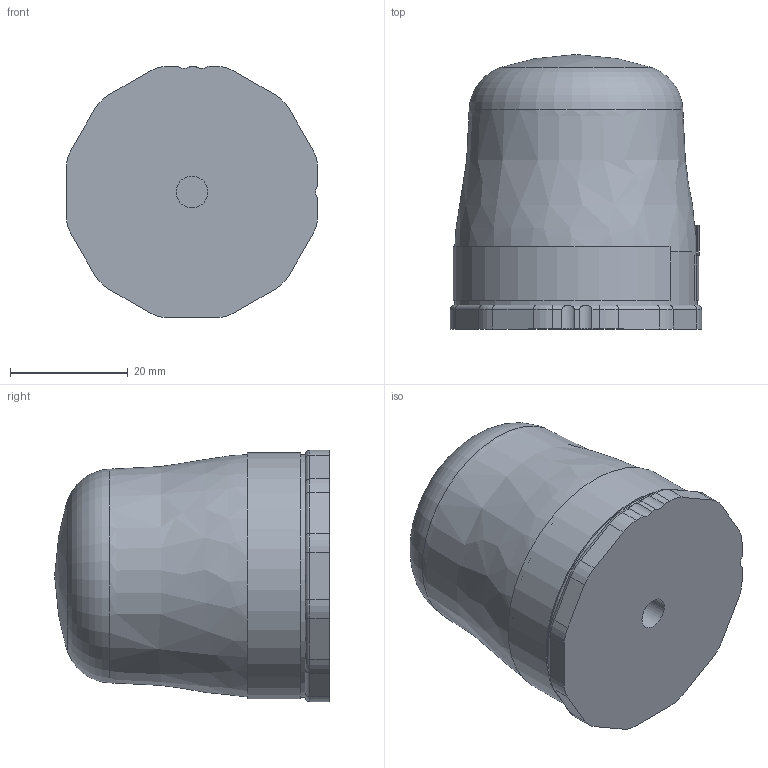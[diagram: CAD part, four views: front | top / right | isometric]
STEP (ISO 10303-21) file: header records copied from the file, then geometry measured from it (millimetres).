
FILE_DESCRIPTION(/* description */ ('','CAx-IF Rec.Pracs.---Representation and Presentation of Product Manufacturing Information (PMI)---3.8---2014-02-18'),/* implementation_level */ '2;1');
FILE_NAME(/* name */ 'C:\Users\chad_thelen\Desktop\G-Link-200.stp',/* time_stamp */ '2018-07-02T11:42:55-04:00',/* author */ ('chad_thelen'),/* organization */ (''),/* preprocessor_version */ 'ST-DEVELOPER v16.5',/* originating_system */ 'Autodesk Inventor 2017',/* authorisation */ '');
FILE_SCHEMA (('AP242_MANAGED_MODEL_BASED_3D_ENGINEERING_MIM_LF { 1 0 10303 442 1 1 4 }'));
Length unit declared in the file: inch
Products named in the file (14): #24260; 3023-0138; 3023-0141; GL-Jr_Cover_3X_R2; G-Link-200_V3.1; 3023-0142; 3023-0143; O-Ring_Assembly_Drawing_Only; 3023-0136-PCB_V1.4; 92196A090; Orient Label; Cable_data_sheet; 3023-0146; Half_AA
Assembly tree (17 placements, depth 2):
  #24260
    3023-0138
    3023-0141
    GL-Jr_Cover_3X_R2
    G-Link-200_V3.1
    Half_AA  x3
    3023-0142
    3023-0143
    O-Ring_Assembly_Drawing_Only
    3023-0136-PCB_V1.4
    92196A090  x3
    Orient Label
    Cable_data_sheet
    3023-0146
Bounding box: 42.67 x 46.61 x 42.67 mm (x, y, z)
Volume: 38754.8 mm3; surface area: 34315 mm2
Topology: 22 solids, 28 shells, 674 faces, 1655 edges, 1055 vertices
Faces by surface type: plane 340, cylinder 249, cone 42, torus 23, bspline 12, sphere 8
Full cylindrical faces by diameter (mm): 0.254 x1, 0.9 x4, 1.702 x3, 1.803 x2, 2.184 x102, 2.261 x3, 2.286 x3, 2.438 x3, 3.048 x4, 3.556 x3, 4.318 x3, 5.359 x1, 14.199 x3, 28.574 x1, 31.75 x1, 33.02 x1, 33.274 x1, 33.337 x1, 34.036 x1, 35.052 x1, 38.1 x2, 38.354 x1, 41.275 x1
Entity records: 24381 total; most frequent: CARTESIAN_POINT 12011, DIRECTION 2577, ORIENTED_EDGE 2310, EDGE_CURVE 1158, AXIS2_PLACEMENT_3D 919, VERTEX_POINT 760, LINE 739, VECTOR 739
